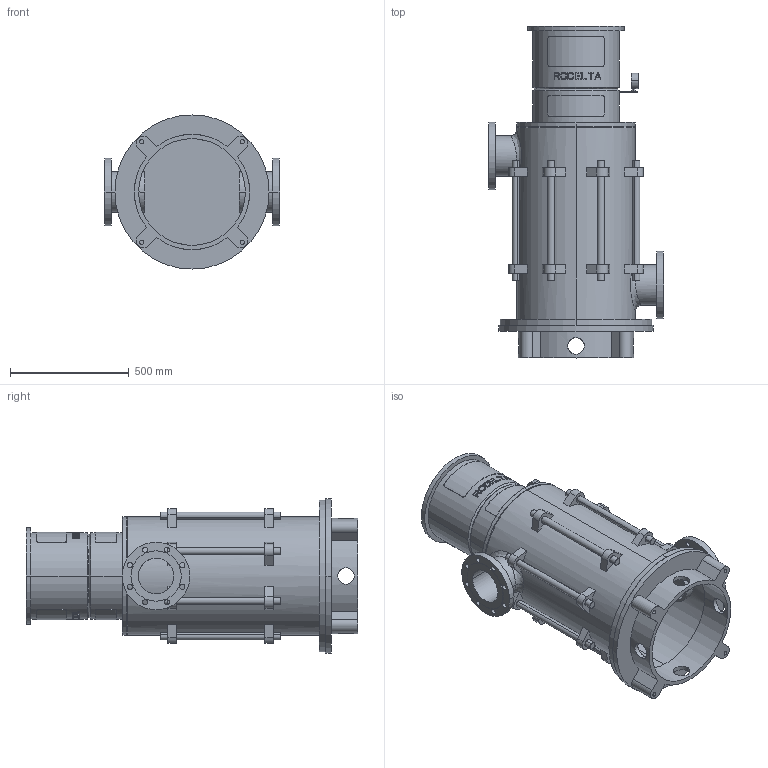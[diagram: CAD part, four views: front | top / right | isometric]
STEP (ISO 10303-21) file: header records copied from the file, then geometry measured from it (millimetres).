
FILE_DESCRIPTION((''),'2;1');
FILE_NAME('LS6_3TR_0GR_TOT_30KW','2023-08-15T',('Lyritlocal'),(''),'PRO/ENGINEER BY PARAMETRIC TECHNOLOGY CORPORATION, 2016360','PRO/ENGINEER BY PARAMETRIC TECHNOLOGY CORPORATION, 2016360','');
FILE_SCHEMA(('CONFIG_CONTROL_DESIGN'));
Length unit declared in the file: millimetre
Products named in the file (1): LS6_3TR_0GR_TOT_30KW
Bounding box: 740 x 1399 x 650 mm (x, y, z)
Volume: 43806548.8 mm3; surface area: 5935224.5 mm2
Topology: 3 solids, 7 shells, 684 faces, 1767 edges, 1174 vertices
Faces by surface type: plane 422, cylinder 242, cone 12, bspline 8
Entity records: 22540 total; most frequent: CARTESIAN_POINT 5928, ORIENTED_EDGE 3518, DIRECTION 3273, EDGE_CURVE 1767, AXIS2_PLACEMENT_3D 1237, VERTEX_POINT 1174, EDGE_LOOP 829, VECTOR 799
